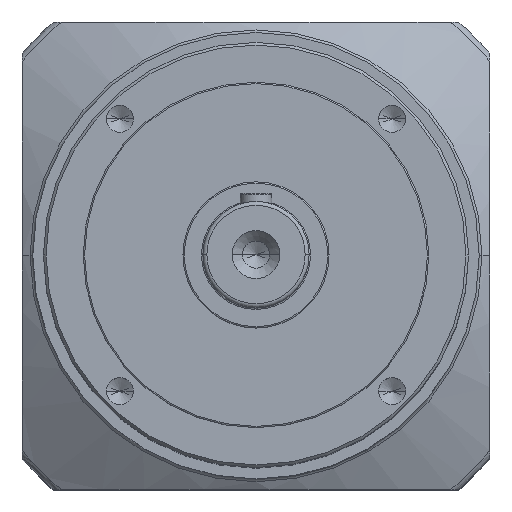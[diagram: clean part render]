
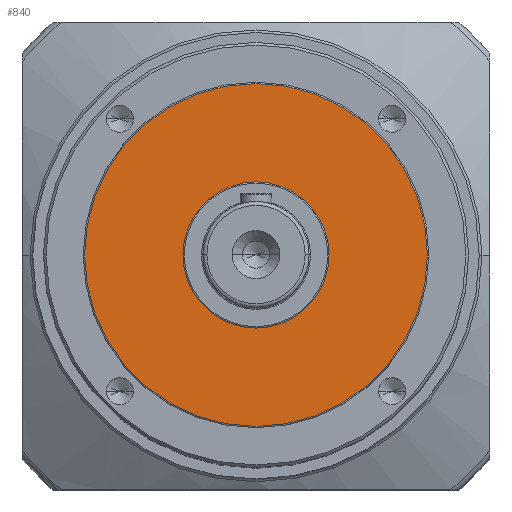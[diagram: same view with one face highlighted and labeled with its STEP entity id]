
A CAD part, top view. The second image highlights one B-rep face of the part: STEP entity #840.
In plain terms, the highlighted planar face has unit normal (0, 0, 1).
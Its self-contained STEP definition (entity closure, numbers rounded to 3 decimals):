
#21 = CARTESIAN_POINT ( 'NONE',  ( -27.5, 0., 5. ) ) ;
#61 = CARTESIAN_POINT ( 'NONE',  ( 0., 0., 5. ) ) ;
#107 = DIRECTION ( 'NONE',  ( 1., 0., 0. ) ) ;
#290 = DIRECTION ( 'NONE',  ( 0., 0., 1. ) ) ;
#433 = AXIS2_PLACEMENT_3D ( 'NONE', #4303, #1994, #5226 ) ;
#530 = DIRECTION ( 'NONE',  ( 1., 0., 0. ) ) ;
#716 = DIRECTION ( 'NONE',  ( 0., 0., 1. ) ) ;
#840 = ADVANCED_FACE ( 'NONE', ( #4276, #5356 ), #1527, .T. ) ;
#888 = ORIENTED_EDGE ( 'NONE', *, *, #5039, .T. ) ;
#1151 = ORIENTED_EDGE ( 'NONE', *, *, #4231, .F. ) ;
#1191 = VERTEX_POINT ( 'NONE', #5665 ) ;
#1527 = PLANE ( 'NONE',  #433 ) ;
#1706 = CARTESIAN_POINT ( 'NONE',  ( 27.5, 0., 5. ) ) ;
#1876 = EDGE_LOOP ( 'NONE', ( #3613, #888 ) ) ;
#1994 = DIRECTION ( 'NONE',  ( 0., 0., 1. ) ) ;
#2248 = EDGE_CURVE ( 'NONE', #5429, #1191, #2969, .T. ) ;
#2265 = CIRCLE ( 'NONE', #3834, 64.5 ) ;
#2332 = EDGE_CURVE ( 'NONE', #4494, #4743, #4049, .T. ) ;
#2736 = AXIS2_PLACEMENT_3D ( 'NONE', #3508, #716, #3967 ) ;
#2927 = DIRECTION ( 'NONE',  ( 0., 0., 1. ) ) ;
#2943 = AXIS2_PLACEMENT_3D ( 'NONE', #5670, #2927, #107 ) ;
#2969 = CIRCLE ( 'NONE', #2736, 64.5 ) ;
#3064 = AXIS2_PLACEMENT_3D ( 'NONE', #3116, #290, #3573 ) ;
#3116 = CARTESIAN_POINT ( 'NONE',  ( 0., 0., 5. ) ) ;
#3339 = DIRECTION ( 'NONE',  ( 0., 0., 1. ) ) ;
#3508 = CARTESIAN_POINT ( 'NONE',  ( 0., 0., 5. ) ) ;
#3573 = DIRECTION ( 'NONE',  ( 1., 0., 0. ) ) ;
#3613 = ORIENTED_EDGE ( 'NONE', *, *, #2248, .T. ) ;
#3834 = AXIS2_PLACEMENT_3D ( 'NONE', #61, #3339, #530 ) ;
#3967 = DIRECTION ( 'NONE',  ( 1., 0., 0. ) ) ;
#4049 = CIRCLE ( 'NONE', #3064, 27.5 ) ;
#4063 = CIRCLE ( 'NONE', #2943, 27.5 ) ;
#4231 = EDGE_CURVE ( 'NONE', #4743, #4494, #4063, .T. ) ;
#4276 = FACE_BOUND ( 'NONE', #5073, .T. ) ;
#4303 = CARTESIAN_POINT ( 'NONE',  ( 0., 0., 5. ) ) ;
#4494 = VERTEX_POINT ( 'NONE', #1706 ) ;
#4519 = CARTESIAN_POINT ( 'NONE',  ( 64.5, 0., 5. ) ) ;
#4743 = VERTEX_POINT ( 'NONE', #21 ) ;
#5039 = EDGE_CURVE ( 'NONE', #1191, #5429, #2265, .T. ) ;
#5073 = EDGE_LOOP ( 'NONE', ( #5690, #1151 ) ) ;
#5226 = DIRECTION ( 'NONE',  ( 1., 0., 0. ) ) ;
#5356 = FACE_OUTER_BOUND ( 'NONE', #1876, .T. ) ;
#5429 = VERTEX_POINT ( 'NONE', #4519 ) ;
#5665 = CARTESIAN_POINT ( 'NONE',  ( -64.5, 0., 5. ) ) ;
#5670 = CARTESIAN_POINT ( 'NONE',  ( 0., 0., 5. ) ) ;
#5690 = ORIENTED_EDGE ( 'NONE', *, *, #2332, .F. ) ;
